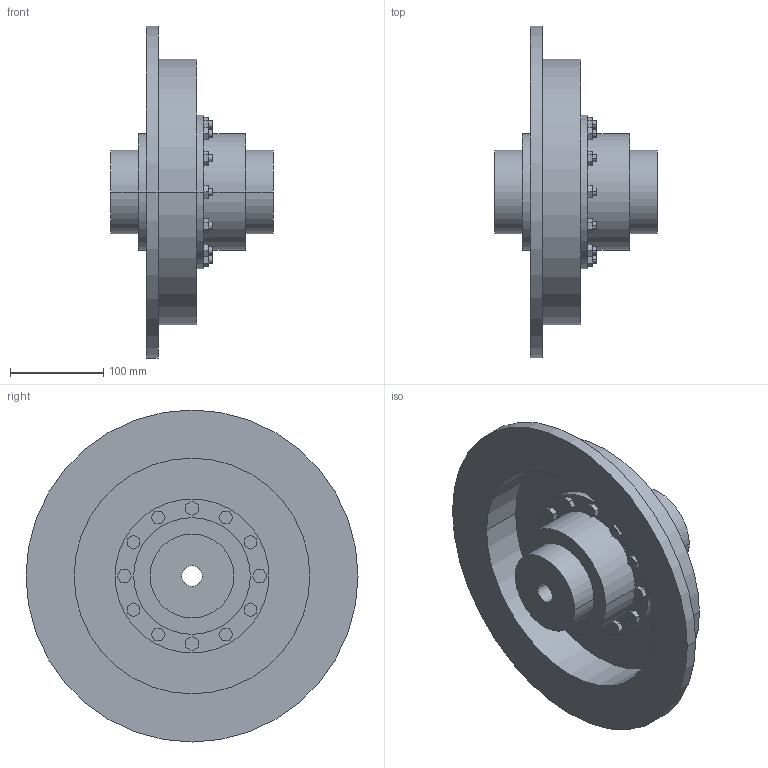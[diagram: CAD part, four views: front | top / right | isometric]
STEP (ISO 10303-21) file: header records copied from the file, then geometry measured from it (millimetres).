
FILE_DESCRIPTION((''),'2;1');
FILE_NAME('A19125900-0_ASM','2018-11-13T',('AB_Roschiwal'),('RENK AG'),'PRO/ENGINEER BY PARAMETRIC TECHNOLOGY CORPORATION, 2015440','PRO/ENGINEER BY PARAMETRIC TECHNOLOGY CORPORATION, 2015440','');
FILE_SCHEMA(('CONFIG_CONTROL_DESIGN'));
Length unit declared in the file: millimetre
Products named in the file (4): LBKT60_GEHAEUSE; LBKT60_NABE; LBKT60_BREMSSCHEIBE; A19125900-0_ASM
Assembly tree (4 placements, depth 2):
  A19125900-0_ASM
    LBKT60_GEHAEUSE
    LBKT60_NABE  x2
    LBKT60_BREMSSCHEIBE
Bounding box: 174 x 356 x 356 mm (x, y, z)
Volume: 3183084.4 mm3; surface area: 510398.7 mm2
Topology: 4 solids, 4 shells, 294 faces, 708 edges, 472 vertices
Faces by surface type: plane 202, cylinder 92
Entity records: 8412 total; most frequent: DIRECTION 1432, CARTESIAN_POINT 1430, ORIENTED_EDGE 1368, EDGE_CURVE 684, VECTOR 516, LINE 516, AXIS2_PLACEMENT_3D 458, VERTEX_POINT 456
